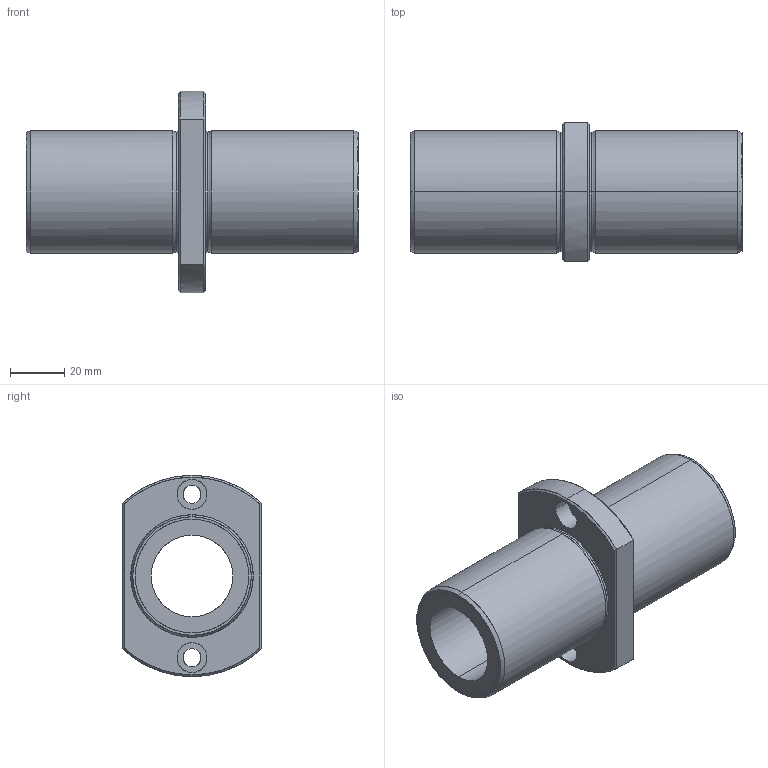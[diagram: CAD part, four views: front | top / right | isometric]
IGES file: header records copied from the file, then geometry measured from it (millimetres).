
Global section: file name: No Iges File Name specified; native system: AutoDesk Inventor R10; preprocessor: AutoDesk Inventor Iges Exporter R10; author: No Author specified; organization: No Organization specified; date: 20101211.155945; units: millimetre
Bounding box: 122 x 51 x 74 mm (x, y, z)
Surface area: 35269.2 mm2 (no closed solid volume)
Topology: 0 solids, 0 shells, 56 faces, 336 edges, 336 vertices
Faces by surface type: bspline 56
